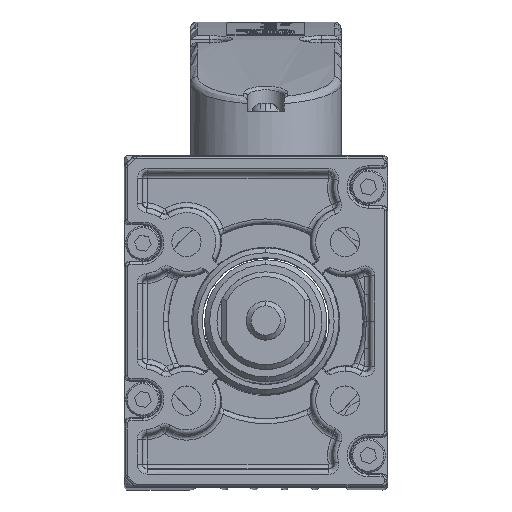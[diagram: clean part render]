
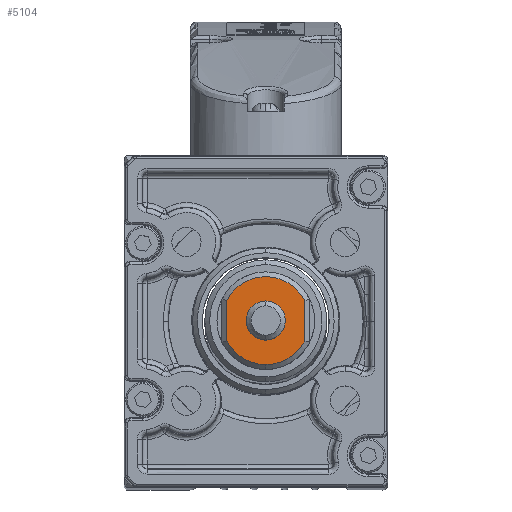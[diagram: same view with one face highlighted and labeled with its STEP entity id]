
A CAD part, top view. The second image highlights one B-rep face of the part: STEP entity #5104.
In plain terms, the highlighted planar face has unit normal (0, 0, 1) as drawn and (0, 0, -1) by its records, which use the part's own axes.
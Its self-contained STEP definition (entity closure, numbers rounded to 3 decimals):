
#2057 = ORIENTED_EDGE ( 'NONE', *, *, #5372, .T. ) ;
#2059 = ORIENTED_EDGE ( 'NONE', *, *, #5373, .T. ) ;
#2060 = ORIENTED_EDGE ( 'NONE', *, *, #5374, .T. ) ;
#2062 = ORIENTED_EDGE ( 'NONE', *, *, #5305, .T. ) ;
#2064 = ORIENTED_EDGE ( 'NONE', *, *, #5375, .T. ) ;
#2066 = ORIENTED_EDGE ( 'NONE', *, *, #5322, .T. ) ;
#2068 = ORIENTED_EDGE ( 'NONE', *, *, #5376, .T. ) ;
#5104 = ADVANCED_FACE ( 'NONE', ( #55783, #55784 ), #55785, .T. ) ;
#5305 = EDGE_CURVE ( 'NONE', #6261, #6345, #42144, .T. ) ;
#5322 = EDGE_CURVE ( 'NONE', #6386, #6375, #42186, .T. ) ;
#5372 = EDGE_CURVE ( 'NONE', #6687, #6421, #42337, .T. ) ;
#5373 = EDGE_CURVE ( 'NONE', #6421, #6335, #15338, .T. ) ;
#5374 = EDGE_CURVE ( 'NONE', #6335, #6261, #42344, .T. ) ;
#5375 = EDGE_CURVE ( 'NONE', #6345, #6687, #15345, .T. ) ;
#5376 = EDGE_CURVE ( 'NONE', #6375, #6386, #42349, .T. ) ;
#6261 = VERTEX_POINT ( 'NONE', #40848 ) ;
#6335 = VERTEX_POINT ( 'NONE', #40983 ) ;
#6345 = VERTEX_POINT ( 'NONE', #41006 ) ;
#6375 = VERTEX_POINT ( 'NONE', #41052 ) ;
#6386 = VERTEX_POINT ( 'NONE', #41078 ) ;
#6421 = VERTEX_POINT ( 'NONE', #41147 ) ;
#6687 = VERTEX_POINT ( 'NONE', #34371 ) ;
#15143 = CARTESIAN_POINT ( 'NONE',  ( 0., 0., -443. ) ) ;
#15144 = DIRECTION ( 'NONE',  ( 0., 0., -1. ) ) ;
#15145 = DIRECTION ( 'NONE',  ( -1., 0., 0. ) ) ;
#15195 = CARTESIAN_POINT ( 'NONE',  ( 0., 0., -443. ) ) ;
#15196 = DIRECTION ( 'NONE',  ( 0., 0., 1. ) ) ;
#15197 = DIRECTION ( 'NONE',  ( 1., 0., 0. ) ) ;
#15338 = LINE ( 'NONE', #15339, #42340 ) ;
#15339 = CARTESIAN_POINT ( 'NONE',  ( 4.359, 8., -443. ) ) ;
#15345 = LINE ( 'NONE', #15346, #42346 ) ;
#15346 = CARTESIAN_POINT ( 'NONE',  ( -4.359, -8., -443. ) ) ;
#15347 = CARTESIAN_POINT ( 'NONE',  ( 0., 0., -443. ) ) ;
#15348 = DIRECTION ( 'NONE',  ( 0., 0., -1. ) ) ;
#15349 = DIRECTION ( 'NONE',  ( -1., 0., 0. ) ) ;
#15350 = DIRECTION ( 'NONE',  ( 1., 0., 0. ) ) ;
#15351 = CARTESIAN_POINT ( 'NONE',  ( 0., 0., -443. ) ) ;
#15352 = DIRECTION ( 'NONE',  ( 0., 0., -1. ) ) ;
#15353 = DIRECTION ( 'NONE',  ( -1., 0., 0. ) ) ;
#15354 = DIRECTION ( 'NONE',  ( -1., 0., 0. ) ) ;
#15355 = CARTESIAN_POINT ( 'NONE',  ( 0., 0., -443. ) ) ;
#15356 = DIRECTION ( 'NONE',  ( 0., 0., 1. ) ) ;
#15357 = DIRECTION ( 'NONE',  ( 1., 0., 0. ) ) ;
#21706 = AXIS2_PLACEMENT_3D ( 'NONE', #55779, #55787, #55788 ) ;
#34371 = CARTESIAN_POINT ( 'NONE',  ( -4.123, -8., -443. ) ) ;
#40848 = CARTESIAN_POINT ( 'NONE',  ( 9., 0., -443. ) ) ;
#40983 = CARTESIAN_POINT ( 'NONE',  ( 4.123, 8., -443. ) ) ;
#41006 = CARTESIAN_POINT ( 'NONE',  ( 4.123, -8., -443. ) ) ;
#41052 = CARTESIAN_POINT ( 'NONE',  ( -4., 0., -443. ) ) ;
#41078 = CARTESIAN_POINT ( 'NONE',  ( 4., 0., -443. ) ) ;
#41147 = CARTESIAN_POINT ( 'NONE',  ( -4.123, 8., -443. ) ) ;
#42144 = CIRCLE ( 'NONE', #42147, 9. ) ;
#42147 = AXIS2_PLACEMENT_3D ( 'NONE', #15143, #15144, #15145 ) ;
#42186 = CIRCLE ( 'NONE', #42188, 4. ) ;
#42188 = AXIS2_PLACEMENT_3D ( 'NONE', #15195, #15196, #15197 ) ;
#42337 = CIRCLE ( 'NONE', #42342, 9. ) ;
#42340 = VECTOR ( 'NONE', #15350, 1000. ) ;
#42342 = AXIS2_PLACEMENT_3D ( 'NONE', #15347, #15348, #15349 ) ;
#42344 = CIRCLE ( 'NONE', #42348, 9. ) ;
#42346 = VECTOR ( 'NONE', #15354, 1000. ) ;
#42348 = AXIS2_PLACEMENT_3D ( 'NONE', #15351, #15352, #15353 ) ;
#42349 = CIRCLE ( 'NONE', #42353, 4. ) ;
#42353 = AXIS2_PLACEMENT_3D ( 'NONE', #15355, #15356, #15357 ) ;
#55779 = CARTESIAN_POINT ( 'NONE',  ( 10., 0., -443. ) ) ;
#55783 = FACE_OUTER_BOUND ( 'NONE', #56683, .T. ) ;
#55784 = FACE_BOUND ( 'NONE', #56701, .T. ) ;
#55785 = PLANE ( 'NONE',  #21706 ) ;
#55787 = DIRECTION ( 'NONE',  ( 0., 0., -1. ) ) ;
#55788 = DIRECTION ( 'NONE',  ( -1., 0., 0. ) ) ;
#56683 = EDGE_LOOP ( 'NONE', ( #2057, #2059, #2060, #2062, #2064 ) ) ;
#56701 = EDGE_LOOP ( 'NONE', ( #2066, #2068 ) ) ;
